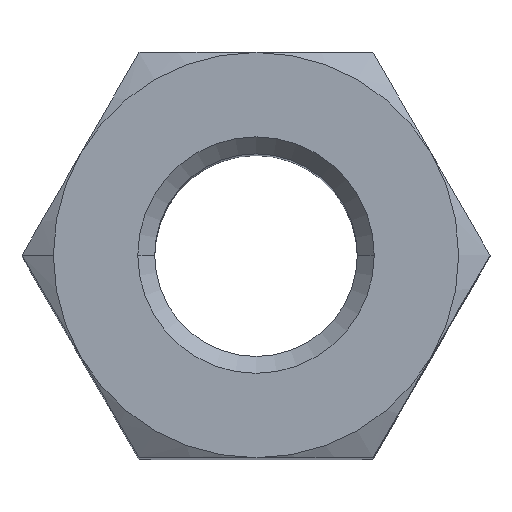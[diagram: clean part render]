
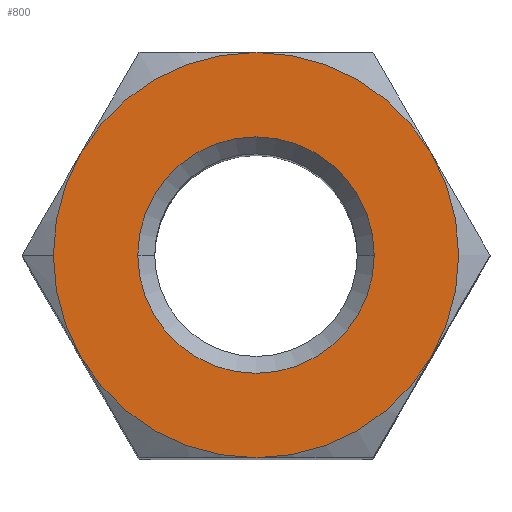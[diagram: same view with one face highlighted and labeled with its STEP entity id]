
A CAD part, top view. The second image highlights one B-rep face of the part: STEP entity #800.
In plain terms, the highlighted planar face has unit normal (0, 0, 1).
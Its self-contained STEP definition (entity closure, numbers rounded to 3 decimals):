
#8 = CARTESIAN_POINT ( 'NONE',  ( 0., 0., 7.5 ) ) ;
#17 = CARTESIAN_POINT ( 'NONE',  ( 0., 0., 7.5 ) ) ;
#23 = ORIENTED_EDGE ( 'NONE', *, *, #256, .T. ) ;
#26 = AXIS2_PLACEMENT_3D ( 'NONE', #372, #448, #36 ) ;
#36 = DIRECTION ( 'NONE',  ( -1., 0., 0. ) ) ;
#77 = EDGE_CURVE ( 'NONE', #840, #295, #290, .T. ) ;
#93 = VERTEX_POINT ( 'NONE', #407 ) ;
#100 = CIRCLE ( 'NONE', #26, 3. ) ;
#106 = DIRECTION ( 'NONE',  ( -1., 0., 0. ) ) ;
#128 = AXIS2_PLACEMENT_3D ( 'NONE', #541, #721, #733 ) ;
#131 = DIRECTION ( 'NONE',  ( 0., 0., -1. ) ) ;
#140 = CARTESIAN_POINT ( 'NONE',  ( 2.598, 1.5, 7.5 ) ) ;
#154 = AXIS2_PLACEMENT_3D ( 'NONE', #188, #131, #607 ) ;
#168 = ORIENTED_EDGE ( 'NONE', *, *, #543, .T. ) ;
#188 = CARTESIAN_POINT ( 'NONE',  ( 0., 0., 7.5 ) ) ;
#201 = AXIS2_PLACEMENT_3D ( 'NONE', #549, #879, #736 ) ;
#205 = VERTEX_POINT ( 'NONE', #737 ) ;
#222 = FACE_OUTER_BOUND ( 'NONE', #493, .T. ) ;
#230 = CARTESIAN_POINT ( 'NONE',  ( 0., 0., 7.5 ) ) ;
#232 = CIRCLE ( 'NONE', #201, 3. ) ;
#256 = EDGE_CURVE ( 'NONE', #353, #328, #560, .T. ) ;
#265 = ORIENTED_EDGE ( 'NONE', *, *, #647, .T. ) ;
#289 = EDGE_LOOP ( 'NONE', ( #373, #168 ) ) ;
#290 = CIRCLE ( 'NONE', #154, 1.75 ) ;
#295 = VERTEX_POINT ( 'NONE', #569 ) ;
#316 = CIRCLE ( 'NONE', #415, 3. ) ;
#321 = EDGE_CURVE ( 'NONE', #516, #93, #611, .T. ) ;
#328 = VERTEX_POINT ( 'NONE', #617 ) ;
#332 = CARTESIAN_POINT ( 'NONE',  ( 0., 0., 7.5 ) ) ;
#342 = DIRECTION ( 'NONE',  ( 1., 0., 0. ) ) ;
#353 = VERTEX_POINT ( 'NONE', #140 ) ;
#364 = DIRECTION ( 'NONE',  ( 0., 0., 1. ) ) ;
#372 = CARTESIAN_POINT ( 'NONE',  ( 0., 0., 7.5 ) ) ;
#373 = ORIENTED_EDGE ( 'NONE', *, *, #77, .T. ) ;
#389 = AXIS2_PLACEMENT_3D ( 'NONE', #332, #602, #539 ) ;
#392 = ORIENTED_EDGE ( 'NONE', *, *, #405, .T. ) ;
#405 = EDGE_CURVE ( 'NONE', #806, #516, #718, .T. ) ;
#407 = CARTESIAN_POINT ( 'NONE',  ( 2.598, -1.5, 7.5 ) ) ;
#412 = FACE_BOUND ( 'NONE', #289, .T. ) ;
#415 = AXIS2_PLACEMENT_3D ( 'NONE', #17, #709, #106 ) ;
#432 = CARTESIAN_POINT ( 'NONE',  ( 0., -3., 7.5 ) ) ;
#436 = EDGE_CURVE ( 'NONE', #608, #806, #100, .T. ) ;
#437 = CARTESIAN_POINT ( 'NONE',  ( 0., 0., 7.5 ) ) ;
#441 = DIRECTION ( 'NONE',  ( 0., 0., 1. ) ) ;
#444 = AXIS2_PLACEMENT_3D ( 'NONE', #621, #364, #816 ) ;
#448 = DIRECTION ( 'NONE',  ( 0., 0., 1. ) ) ;
#462 = CIRCLE ( 'NONE', #389, 3. ) ;
#493 = EDGE_LOOP ( 'NONE', ( #265, #620, #392, #568, #747, #23, #815 ) ) ;
#495 = PLANE ( 'NONE',  #833 ) ;
#516 = VERTEX_POINT ( 'NONE', #432 ) ;
#539 = DIRECTION ( 'NONE',  ( -1., 0., 0. ) ) ;
#541 = CARTESIAN_POINT ( 'NONE',  ( 0., 0., 7.5 ) ) ;
#543 = EDGE_CURVE ( 'NONE', #295, #840, #678, .T. ) ;
#544 = AXIS2_PLACEMENT_3D ( 'NONE', #230, #822, #566 ) ;
#549 = CARTESIAN_POINT ( 'NONE',  ( 0., 0., 7.5 ) ) ;
#560 = CIRCLE ( 'NONE', #444, 3. ) ;
#566 = DIRECTION ( 'NONE',  ( -1., 0., 0. ) ) ;
#568 = ORIENTED_EDGE ( 'NONE', *, *, #321, .T. ) ;
#569 = CARTESIAN_POINT ( 'NONE',  ( -1.75, 0., 7.5 ) ) ;
#602 = DIRECTION ( 'NONE',  ( 0., 0., 1. ) ) ;
#607 = DIRECTION ( 'NONE',  ( -1., 0., 0. ) ) ;
#608 = VERTEX_POINT ( 'NONE', #662 ) ;
#609 = DIRECTION ( 'NONE',  ( 0., 0., -1. ) ) ;
#611 = CIRCLE ( 'NONE', #544, 3. ) ;
#617 = CARTESIAN_POINT ( 'NONE',  ( 0., 3., 7.5 ) ) ;
#620 = ORIENTED_EDGE ( 'NONE', *, *, #436, .T. ) ;
#621 = CARTESIAN_POINT ( 'NONE',  ( 0., 0., 7.5 ) ) ;
#647 = EDGE_CURVE ( 'NONE', #205, #608, #462, .T. ) ;
#651 = DIRECTION ( 'NONE',  ( -1., 0., 0. ) ) ;
#662 = CARTESIAN_POINT ( 'NONE',  ( -3., 0., 7.5 ) ) ;
#673 = CARTESIAN_POINT ( 'NONE',  ( -2.598, -1.5, 7.5 ) ) ;
#678 = CIRCLE ( 'NONE', #128, 1.75 ) ;
#709 = DIRECTION ( 'NONE',  ( 0., 0., -1. ) ) ;
#716 = EDGE_CURVE ( 'NONE', #93, #353, #232, .T. ) ;
#718 = CIRCLE ( 'NONE', #801, 3. ) ;
#721 = DIRECTION ( 'NONE',  ( 0., 0., -1. ) ) ;
#733 = DIRECTION ( 'NONE',  ( -1., 0., 0. ) ) ;
#736 = DIRECTION ( 'NONE',  ( -1., 0., 0. ) ) ;
#737 = CARTESIAN_POINT ( 'NONE',  ( -2.598, 1.5, 7.5 ) ) ;
#747 = ORIENTED_EDGE ( 'NONE', *, *, #716, .T. ) ;
#800 = ADVANCED_FACE ( 'NONE', ( #412, #222 ), #495, .F. ) ;
#801 = AXIS2_PLACEMENT_3D ( 'NONE', #437, #441, #651 ) ;
#806 = VERTEX_POINT ( 'NONE', #673 ) ;
#815 = ORIENTED_EDGE ( 'NONE', *, *, #861, .F. ) ;
#816 = DIRECTION ( 'NONE',  ( -1., 0., 0. ) ) ;
#822 = DIRECTION ( 'NONE',  ( 0., 0., 1. ) ) ;
#833 = AXIS2_PLACEMENT_3D ( 'NONE', #8, #609, #342 ) ;
#840 = VERTEX_POINT ( 'NONE', #846 ) ;
#846 = CARTESIAN_POINT ( 'NONE',  ( 1.75, 0., 7.5 ) ) ;
#861 = EDGE_CURVE ( 'NONE', #205, #328, #316, .T. ) ;
#879 = DIRECTION ( 'NONE',  ( 0., 0., 1. ) ) ;
